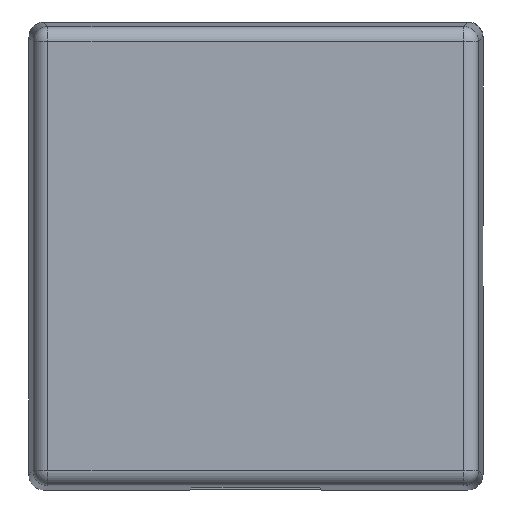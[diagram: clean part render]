
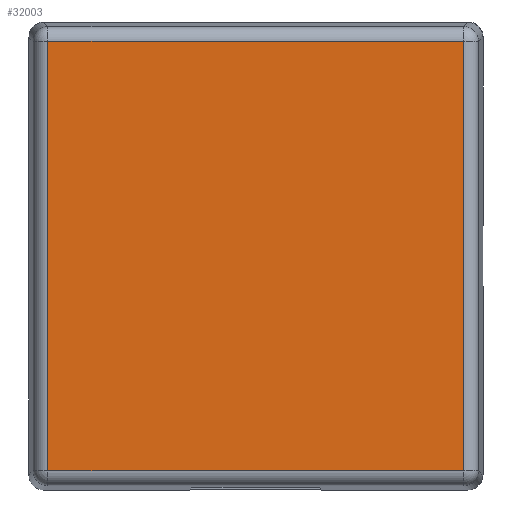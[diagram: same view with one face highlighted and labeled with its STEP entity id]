
A CAD part, top view. The second image highlights one B-rep face of the part: STEP entity #32003.
In plain terms, the highlighted planar face has unit normal (0, 0, 1) as drawn and (0, 0, -1) by its records, which use the part's own axes.
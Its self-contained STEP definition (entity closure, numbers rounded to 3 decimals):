
#14380=VERTEX_POINT('',#40444);
#14381=VERTEX_POINT('',#40445);
#14382=VERTEX_POINT('',#40447);
#14383=VERTEX_POINT('',#40449);
#16239=VECTOR('',#35134,1.);
#16240=VECTOR('',#35135,1.);
#16241=VECTOR('',#35136,1.);
#16242=VECTOR('',#35137,1.);
#18436=LINE('',#40443,#16239);
#18437=LINE('',#40446,#16240);
#18438=LINE('',#40448,#16241);
#18439=LINE('',#40450,#16242);
#20656=EDGE_CURVE('',#14380,#14381,#18436,.T.);
#20657=EDGE_CURVE('',#14382,#14380,#18437,.T.);
#20658=EDGE_CURVE('',#14383,#14382,#18438,.T.);
#20659=EDGE_CURVE('',#14381,#14383,#18439,.T.);
#23609=ORIENTED_EDGE('',*,*,#20656,.F.);
#23610=ORIENTED_EDGE('',*,*,#20657,.F.);
#23611=ORIENTED_EDGE('',*,*,#20658,.F.);
#23612=ORIENTED_EDGE('',*,*,#20659,.F.);
#29413=EDGE_LOOP('',(#23609,#23610,#23611,#23612));
#30708=FACE_BOUND('',#29413,.T.);
#32003=ADVANCED_FACE('',(#30708),#50770,.F.);
#33172=AXIS2_PLACEMENT_3D('',#40442,#35133,$);
#35133=DIRECTION('',(0.,0.,1.));
#35134=DIRECTION('',(0.,1.,0.));
#35135=DIRECTION('',(1.,0.,0.));
#35136=DIRECTION('',(0.,-1.,0.));
#35137=DIRECTION('',(-1.,0.,0.));
#40442=CARTESIAN_POINT('',(0.,0.,-0.032));
#40443=CARTESIAN_POINT('',(17.324,-17.895,-0.032));
#40444=CARTESIAN_POINT('',(17.324,-17.895,-0.032));
#40445=CARTESIAN_POINT('',(17.324,17.895,-0.032));
#40446=CARTESIAN_POINT('',(-17.324,-17.895,-0.032));
#40447=CARTESIAN_POINT('',(-17.324,-17.895,-0.032));
#40448=CARTESIAN_POINT('',(-17.324,17.895,-0.032));
#40449=CARTESIAN_POINT('',(-17.324,17.895,-0.032));
#40450=CARTESIAN_POINT('',(17.324,17.895,-0.032));
#50770=PLANE('',#33172);
